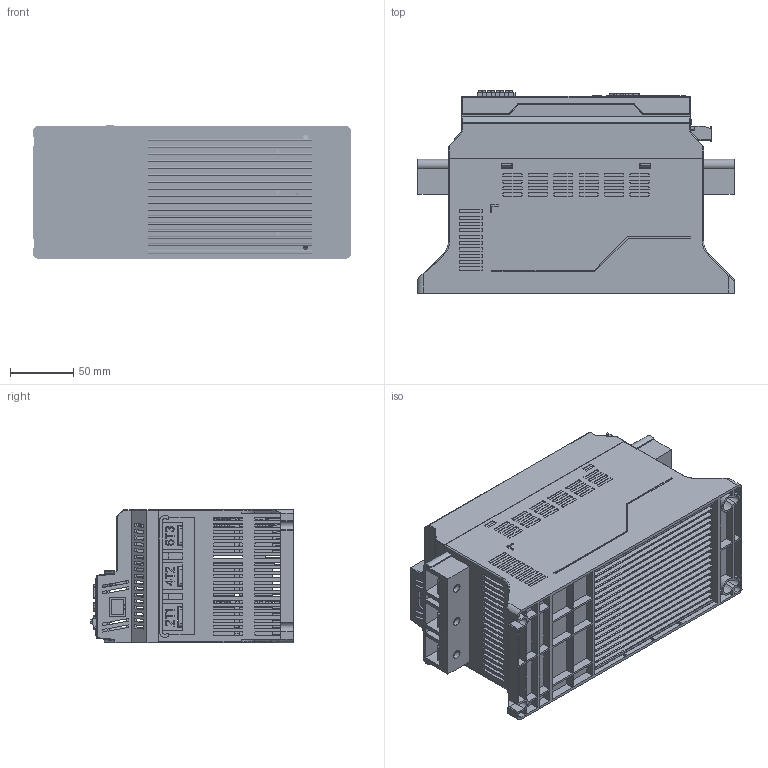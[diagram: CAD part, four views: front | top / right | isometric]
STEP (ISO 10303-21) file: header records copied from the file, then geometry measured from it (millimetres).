
FILE_DESCRIPTION((''),'2;1');
FILE_NAME('360-18-37KW-000_ASM','2025-04-02T11:56:54',('13048'),(''),'CREO PARAMETRIC BY PTC INC, 2021063','CREO PARAMETRIC BY PTC INC, 2021063','');
FILE_SCHEMA(('AUTOMOTIVE_DESIGN { 1 0 10303 214 1 1 1 1 }'));
Products named in the file (65): 8800-18-37-0_1; 360--18-37-000_1; _110A-000_1; 8800--18-37-PCB-1_1; WRV7-024-HP-70A-_1; 8800-70A-1-0001_1; 8800--18-37KW-PCB-1_ASM_1_ASM; 8800--18-37-0001_1; 8800--18-37-0002_1; CIHUAN-1000-1-_1; 8800-18-37KW-0002_ASM_1_ASM; 8800--18-37-PCB-2_1; 8800--18-37--128640001_1; _1D5-00-0001_1; _3D5-00-0001_1; _3D-00-0001_1; _3D5-6-0001_ASM_1_ASM; _RJ450001_6; _6-6-8-0001_1; 254-0001_1; 8800--18-37-PCB-200_ASM_1_ASM; 360-18-37-000_1-133115; _3-10001_1; 360-0001_1; 8800-508-7P--00_1; _-2540001_1_1; _-2540001_1_2; _-2540001_1_3; _-2540001_1_ASM; 360-18-37-0001_ASM_1_ASM; 7000-DUANZI-5-2P-_1; 8800-18-37-000_1; 360-18-37-0_1; 360-18-37-000_1-228767; 7000-DUANZI-M-762-1P_AF0_6; 7000-DUANZI-M-762-1P_AF1_6; 7000-762-M-2P_ASM_7_ASM; 7000-DUANZI-750-1P_AF0_5; 7000-DUANZI-750-1P_AF1_5; 7000-DUANZI-762-2P_ASM_5_ASM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
Assembly tree (103 placements, depth 6):
  360-18-37KW-000_ASM
    8800-18-37KW-000_ASM_1_ASM
      8800-18-37-0_1
      8800-18-37KW-0002_ASM_1_ASM
        360--18-37-000_1
        _110A-000_1  x3
        8800--18-37KW-PCB-1_ASM_1_ASM  x3
          8800--18-37-PCB-1_1
          WRV7-024-HP-70A-_1
          8800-70A-1-0001_1
        8800--18-37-0001_1  x3
        8800--18-37-0002_1  x3
        CIHUAN-1000-1-_1  x3
      8800--18-37-PCB-200_ASM_1_ASM
        8800--18-37-PCB-2_1
        8800--18-37--128640001_1
        _3D5-6-0001_ASM_1_ASM
          _1D5-00-0001_1
          _3D5-00-0001_1  x3
          _3D-00-0001_1  x3
        _RJ450001_6
        _6-6-8-0001_1  x7
        254-0001_1  x10
        _3D5-00-0001_1
        _3D-00-0001_1
      360-18-37-0001_ASM_1_ASM
        360-18-37-000_1-133115
        _3-10001_1
        360-0001_1  x3
        8800-508-7P--00_1
        _-2540001_1_ASM
          _-2540001_1_1
          _-2540001_1_2
          _-2540001_1_3
      7000-DUANZI-5-2P-_1  x5
      8800-18-37-000_1  x2
      360-18-37-0_1
      360-18-37-000_1-228767
      7000-762-M-2P_ASM_7_ASM
        7000-DUANZI-M-762-1P_AF0_6
        7000-DUANZI-M-762-1P_AF1_6
      7000-DUANZI-762-2P_ASM_5_ASM
        7000-DUANZI-750-1P_AF0_5
        7000-DUANZI-750-1P_AF1_5
    360-15-10_ASM
      360-15-10_22_ASM_1_ASM
        360-15-0_ASM_1_ASM_1_ASM
          8800-11-11-25-2_ASM_ASM_1_ASM_1_ASM
            360-11-000_1_1
          LOGO-OP_1_ASM_1_ASM
            LOGO-OP_1_1_1
            LOGO-OP_1_2_1
            LOGO-OP_1_3_1
            LOGO-OP_1_4_1
            LOGO-OP_1_5_1
            LOGO-OP_1_6_1
            LOGO-OP_1_7_1
            LOGO-OP_1_8_1
            LOGO-OP_1_9_1
            LOGO-OP_1_10_1
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Bounding box: 250 x 159.7 x 105.5 mm (x, y, z)
Volume: 1042313.9 mm3; surface area: 685955.2 mm2
Topology: 95 solids, 95 shells, 9171 faces, 24711 edges, 16311 vertices
Faces by surface type: plane 7110, cylinder 1682, extrusion 296, torus 35, sphere 24, bspline 14, cone 10
Entity records: 251814 total; most frequent: CARTESIAN_POINT 38822, ORIENTED_EDGE 33956, DIRECTION 31462, EDGE_CURVE 16978, PRESENTATION_STYLE_ASSIGNMENT 15970, STYLED_ITEM 15774, CURVE_STYLE 15607, VECTOR 14002
